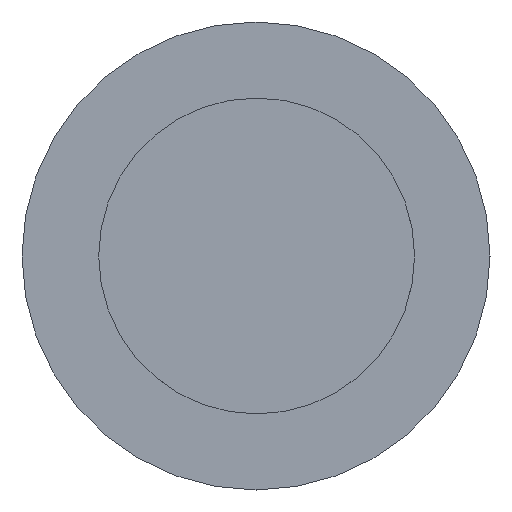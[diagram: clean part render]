
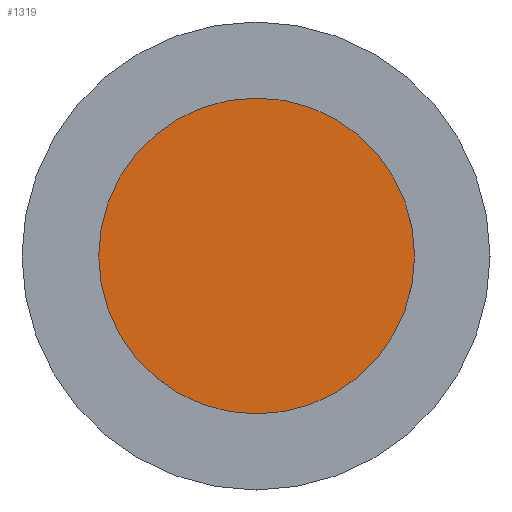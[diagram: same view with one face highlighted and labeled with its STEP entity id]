
A CAD part, front view. The second image highlights one B-rep face of the part: STEP entity #1319.
In plain terms, the highlighted planar face has unit normal (0, -1, 0).
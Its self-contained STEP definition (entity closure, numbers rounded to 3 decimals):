
#25 = CIRCLE ( 'NONE', #1253, 36.448 ) ;
#70 = EDGE_CURVE ( 'NONE', #681, #1683, #443, .T. ) ;
#118 = DIRECTION ( 'NONE',  ( -1., 0., 0. ) ) ;
#150 = EDGE_LOOP ( 'NONE', ( #284, #820 ) ) ;
#284 = ORIENTED_EDGE ( 'NONE', *, *, #553, .F. ) ;
#443 = CIRCLE ( 'NONE', #1001, 36.448 ) ;
#450 = AXIS2_PLACEMENT_3D ( 'NONE', #499, #1132, #1125 ) ;
#499 = CARTESIAN_POINT ( 'NONE',  ( -36.448, 0., 0. ) ) ;
#520 = DIRECTION ( 'NONE',  ( 0., 1., 0. ) ) ;
#553 = EDGE_CURVE ( 'NONE', #1683, #681, #25, .T. ) ;
#681 = VERTEX_POINT ( 'NONE', #1475 ) ;
#775 = DIRECTION ( 'NONE',  ( 0., 1., 0. ) ) ;
#820 = ORIENTED_EDGE ( 'NONE', *, *, #70, .F. ) ;
#897 = CARTESIAN_POINT ( 'NONE',  ( 0., 0., 0. ) ) ;
#1001 = AXIS2_PLACEMENT_3D ( 'NONE', #897, #775, #1662 ) ;
#1112 = CARTESIAN_POINT ( 'NONE',  ( -36.448, 0., 0. ) ) ;
#1125 = DIRECTION ( 'NONE',  ( 1., 0., 0. ) ) ;
#1132 = DIRECTION ( 'NONE',  ( 0., -1., 0. ) ) ;
#1178 = CARTESIAN_POINT ( 'NONE',  ( 0., 0., 0. ) ) ;
#1253 = AXIS2_PLACEMENT_3D ( 'NONE', #1178, #520, #118 ) ;
#1272 = PLANE ( 'NONE',  #450 ) ;
#1319 = ADVANCED_FACE ( 'NONE', ( #1378 ), #1272, .T. ) ;
#1378 = FACE_OUTER_BOUND ( 'NONE', #150, .T. ) ;
#1475 = CARTESIAN_POINT ( 'NONE',  ( 36.448, 0., 0. ) ) ;
#1662 = DIRECTION ( 'NONE',  ( -1., 0., 0. ) ) ;
#1683 = VERTEX_POINT ( 'NONE', #1112 ) ;
